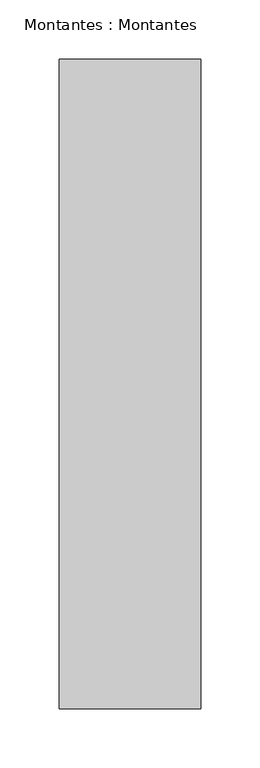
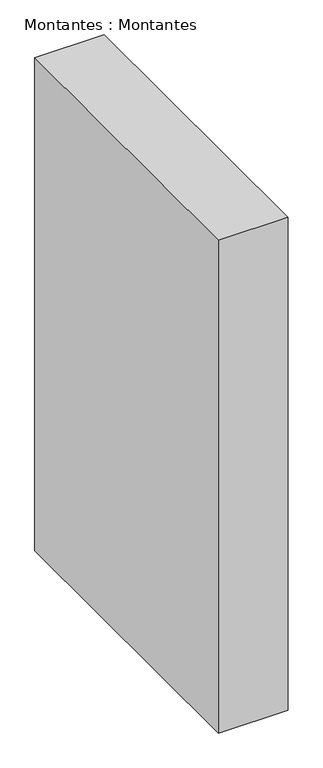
"""IFC4 building model written with IfcOpenShell, lengths in millimetres: column geometry, Montantes : Montantes."""

import ifcopenshell
import ifcopenshell.guid

model = None  # the IFC model being written
_history = None  # IfcOwnerHistory: only IFC2X3 demands one
_inside = {}  # id of a spatial element -> (the spatial element, [elements in it])
_under = {}  # id of a project, library or spatial element -> (it, [spatial elements below it])
_declared = {}  # id of a project -> (the project, [libraries it declares])
_typed = {}  # id of a type object -> (the type object, [elements of that type])
_made_of = {}  # id of a material, layer set ... -> (it, [elements and type objects made of it])


def new_model(schema):
    """Start an empty IFC model of exactly this schema.

    Asked for "IFC4X3", IfcOpenShell would pick the latest addendum, in which some entities
    have other attributes; the version numbers below select the first issue.
    IFC2X3 requires an IfcOwnerHistory on every rooted entity: one is made here for all.
    """
    global model, _history
    if schema == "IFC4X3":
        model = ifcopenshell.file(schema_version=(4, 3, 0, 0))
    else:
        model = ifcopenshell.file(schema=schema)
    _inside.clear()
    _under.clear()
    _declared.clear()
    _typed.clear()
    _made_of.clear()
    _history = None
    if model.schema == "IFC2X3":
        org = make("IfcOrganization", Name="unknown")
        user = make(
            "IfcPersonAndOrganization",
            ThePerson=make("IfcPerson", FamilyName="unknown"),
            TheOrganization=org,
        )
        app = make(
            "IfcApplication",
            ApplicationDeveloper=org,
            Version="unknown",
            ApplicationFullName="unknown",
            ApplicationIdentifier="unknown",
        )
        _history = make(
            "IfcOwnerHistory",
            OwningUser=user,
            OwningApplication=app,
            ChangeAction="ADDED",
            CreationDate=0,
        )
    return model


def make(cls, **values):
    """One entity of the class cls with the attributes given. An attribute that is None is left unset."""
    return model.create_entity(
        cls, **{name: value for name, value in values.items() if value is not None}
    )


def rooted(cls, **values):
    """An entity with a GlobalId (a new one), such as an element, a storey or a relation."""
    return make(cls, GlobalId=ifcopenshell.guid.new(), OwnerHistory=_history, **values)


def si_unit(unit_type, name, prefix=None):
    """IfcSIUnit, for example si_unit("LENGTHUNIT", "METRE", prefix="MILLI")."""
    return make("IfcSIUnit", UnitType=unit_type, Prefix=prefix, Name=name)


def assignment(units):
    """IfcUnitAssignment: the units of a project."""
    return None if units is None else make("IfcUnitAssignment", Units=units)


def point(xyz):
    """IfcCartesianPoint."""
    return None if xyz is None else make("IfcCartesianPoint", Coordinates=xyz)


def direction(xyz):
    """IfcDirection."""
    return None if xyz is None else make("IfcDirection", DirectionRatios=xyz)


def frame(location, z_axis=None, x_axis=None):
    """IfcAxis2Placement3D, a coordinate frame: its origin and axes. An axis left out is left unset."""
    return make(
        "IfcAxis2Placement3D",
        Location=point(location),
        Axis=direction(z_axis),
        RefDirection=direction(x_axis),
    )


def origin():
    """The frame at (0, 0, 0) with its axes left unset."""
    return frame((0.0, 0.0, 0.0))


def place(relative_to, where):
    """IfcLocalPlacement: puts the frame where relative to a parent placement (None: the world)."""
    return make(
        "IfcLocalPlacement", PlacementRelTo=relative_to, RelativePlacement=where
    )


def context(
    kind, dimensions, precision=None, world=None, true_north=None, identifier=None
):
    """IfcGeometricRepresentationContext, for example the 3D "Model" context."""
    return make(
        "IfcGeometricRepresentationContext",
        ContextIdentifier=identifier,
        ContextType=kind,
        CoordinateSpaceDimension=dimensions,
        Precision=precision,
        WorldCoordinateSystem=world,
        TrueNorth=true_north,
    )


def project(units=None, contexts=None):
    """IfcProject with its units and contexts."""
    return rooted(
        "IfcProject",
        Name="project",
        RepresentationContexts=contexts,
        UnitsInContext=assignment(units),
    )


def spatial(cls, under=None, at=None, **own):
    """A site, building, storey or space (cls), placed at a placement, below another one or the project."""
    s = rooted(cls, ObjectPlacement=at, **own)
    if under is not None:
        _under.setdefault(under.id(), (under, []))[1].append(s)
    return s


def polyline(points):
    """IfcPolyline through the points."""
    return make("IfcPolyline", Points=[point(p) for p in points])


def outline(outer, holes=None, kind="AREA"):
    """IfcArbitraryClosedProfileDef: a profile drawn as a closed curve; with holes, ...WithVoids."""
    if holes is None:
        return make("IfcArbitraryClosedProfileDef", ProfileType=kind, OuterCurve=outer)
    return make(
        "IfcArbitraryProfileDefWithVoids",
        ProfileType=kind,
        OuterCurve=outer,
        InnerCurves=holes,
    )


def extrude(swept, where, along, depth):
    """IfcExtrudedAreaSolid: the profile swept, set in the frame where, extruded along a direction by depth."""
    return make(
        "IfcExtrudedAreaSolid",
        SweptArea=swept,
        Position=where,
        ExtrudedDirection=direction(along),
        Depth=depth,
    )


def shape(context_of_items, identifier, shape_type, items):
    """IfcShapeRepresentation: the items that make up one representation, for example the "Body"."""
    return make(
        "IfcShapeRepresentation",
        ContextOfItems=context_of_items,
        RepresentationIdentifier=identifier,
        RepresentationType=shape_type,
        Items=items,
    )


def source(mapping_origin, context_of_items, identifier, shape_type, items):
    """IfcRepresentationMap: a shape defined once, which mapped items show again and again."""
    return make(
        "IfcRepresentationMap",
        MappingOrigin=mapping_origin,
        MappedRepresentation=shape(context_of_items, identifier, shape_type, items),
    )


def transform(
    local_origin,
    x_axis=None,
    y_axis=None,
    z_axis=None,
    scale=None,
    scale2=None,
    scale3=None,
    uniform=True,
):
    """IfcCartesianTransformationOperator3D, or its non-uniform kind. x_axis, y_axis, z_axis: its Axis1, 2, 3."""
    if uniform:
        return make(
            "IfcCartesianTransformationOperator3D",
            Axis1=direction(x_axis),
            Axis2=direction(y_axis),
            LocalOrigin=point(local_origin),
            Scale=scale,
            Axis3=direction(z_axis),
        )
    return make(
        "IfcCartesianTransformationOperator3DnonUniform",
        Axis1=direction(x_axis),
        Axis2=direction(y_axis),
        LocalOrigin=point(local_origin),
        Scale=scale,
        Axis3=direction(z_axis),
        Scale2=scale2,
        Scale3=scale3,
    )


def mapped(mapping_source, mapping_target):
    """IfcMappedItem: shows the shape of a source again, moved by a transform."""
    return make(
        "IfcMappedItem", MappingSource=mapping_source, MappingTarget=mapping_target
    )


def made_of(thing, what):
    """Note that an element or type object is made of a material, layer set ...; save() writes the relation."""
    if what is not None:
        _made_of.setdefault(what.id(), (what, []))[1].append(thing)
    return thing


def element(
    cls,
    number,
    at=None,
    inside=None,
    cuts=None,
    type_object=None,
    material=None,
    context=None,
    identifier="Body",
    shape_type=None,
    held_by="IfcProductDefinitionShape",
    body=None,
    shapes=None,
    **own,
):
    """One element of the class cls, such as IfcWall. Its Tag is "e" and its number.

    at: its placement. inside: the storey or other place that contains it. cuts: it is an
    opening in that element (IfcRelVoidsElement). A single representation is given by context,
    identifier, shape_type and body (its items); several are given by shapes. held_by: the class
    of the entity that holds the representations. save() writes the other relations.
    """
    e = rooted(cls, Tag="e%d" % number, ObjectPlacement=at, **own)
    if body is not None:
        shapes = [shape(context, identifier, shape_type, body)]
    if shapes is not None:
        e.Representation = make(held_by, Representations=shapes)
    if inside is not None:
        _inside.setdefault(inside.id(), (inside, []))[1].append(e)
    if cuts is not None:
        rooted(
            "IfcRelVoidsElement", RelatingBuildingElement=cuts, RelatedOpeningElement=e
        )
    if type_object is not None:
        _typed.setdefault(type_object.id(), (type_object, []))[1].append(e)
    return made_of(e, material)


def aggregate(whole, parts):
    """IfcRelAggregates: a whole, such as a stair, and the parts it consists of."""
    return rooted("IfcRelAggregates", RelatingObject=whole, RelatedObjects=parts)


def save(model, path):
    """Write the relations noted so far, then the file.

    IfcRelAggregates (storeys below a building ...), IfcRelContainedInSpatialStructure (elements
    in a storey), IfcRelDefinesByType, IfcRelAssociatesMaterial and IfcRelDeclares: one each for
    every whole, place, type object, material and project.
    """
    for whole, parts in _under.values():
        aggregate(whole, parts)
    for where, things in _inside.values():
        rooted(
            "IfcRelContainedInSpatialStructure",
            RelatedElements=things,
            RelatingStructure=where,
        )
    for kind, things in _typed.values():
        rooted("IfcRelDefinesByType", RelatedObjects=things, RelatingType=kind)
    for what, things in _made_of.values():
        rooted("IfcRelAssociatesMaterial", RelatedObjects=things, RelatingMaterial=what)
    for by, libraries in _declared.values():
        rooted("IfcRelDeclares", RelatingContext=by, RelatedDefinitions=libraries)
    model.write(path)


def montantes_montantes_c8d9dac7(model_context):
    return source(origin(), model_context, "Body", "SweptSolid", [
        extrude(outline(polyline([(-3122.3834094, -1042.0637549), (-3122.3834094, -1592.0637549), (-3242.3834094, -1592.0637549), (-3242.3834094, -1042.0637549), (-3122.3834094, -1042.0637549)])), frame((0.0, 0.0, -60.0), z_axis=(0.0, 0.0, 1.0), x_axis=(1.0, 0.0, 0.0)), (0.0, 0.0, 1.0), 900.0),
    ])


if __name__ == "__main__":
    model = new_model("IFC4")
    model_context = context("Model", 3, world=origin())
    ifc_project = project(units=[si_unit("LENGTHUNIT", "METRE", prefix="MILLI")], contexts=[model_context])
    site = spatial("IfcSite", under=ifc_project)
    building = spatial("IfcBuilding", under=site)
    placement = place(None, origin())
    montantes_montantes_shape = montantes_montantes_c8d9dac7(model_context)
    element("IfcColumn", 1, ObjectType="Montantes : Montantes", at=placement, inside=building, context=model_context, shape_type="MappedRepresentation", body=[
        mapped(montantes_montantes_shape, transform((0.0, 0.0, 0.0), x_axis=(1.0, 0.0, 0.0), y_axis=(0.0, 1.0, 0.0), z_axis=(0.0, 0.0, 1.0))),
    ])
    save(model, "model.ifc")
